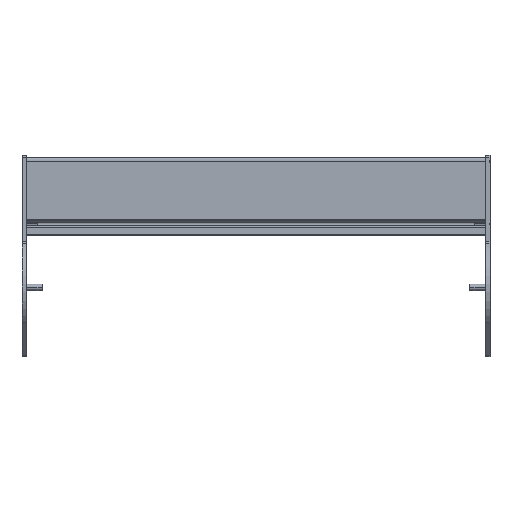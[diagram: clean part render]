
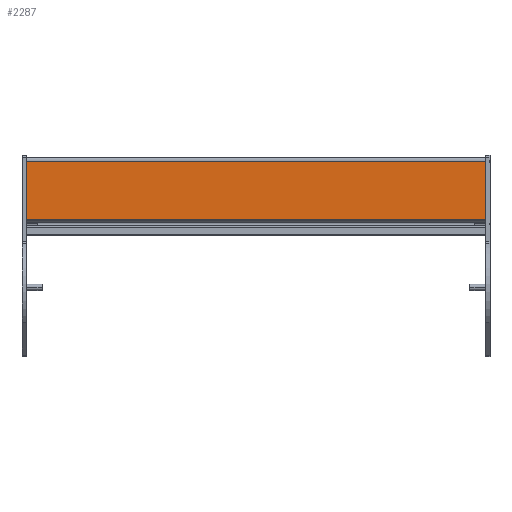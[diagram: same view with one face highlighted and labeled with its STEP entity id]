
A CAD part, top view. The second image highlights one B-rep face of the part: STEP entity #2287.
In plain terms, the highlighted planar face has unit normal (0, 0, 1) as drawn and (1, 0, 0) by its records, which use the part's own axes.
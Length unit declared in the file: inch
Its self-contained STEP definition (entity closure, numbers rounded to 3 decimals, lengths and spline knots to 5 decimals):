
#197=DIRECTION('',(0.,1.,0.));
#198=VECTOR('',#197,1.81445);
#199=CARTESIAN_POINT('',(0.683,-0.84545,-7.118));
#200=LINE('',#199,#198);
#303=DIRECTION('',(0.,1.,0.));
#304=VECTOR('',#303,1.81445);
#305=CARTESIAN_POINT('',(0.683,-0.84545,7.118));
#306=LINE('',#305,#304);
#652=DIRECTION('',(0.,0.,1.));
#653=VECTOR('',#652,14.236);
#654=CARTESIAN_POINT('',(0.683,0.969,-7.118));
#655=LINE('',#654,#653);
#665=DIRECTION('',(0.,0.,-1.));
#666=VECTOR('',#665,14.236);
#667=CARTESIAN_POINT('',(0.683,-0.84545,7.118));
#668=LINE('',#667,#666);
#1268=CARTESIAN_POINT('',(0.683,-0.84545,-7.118));
#1269=CARTESIAN_POINT('',(0.683,0.969,-7.118));
#1270=VERTEX_POINT('',#1268);
#1271=VERTEX_POINT('',#1269);
#1272=CARTESIAN_POINT('',(0.683,-0.84545,7.118));
#1273=CARTESIAN_POINT('',(0.683,0.969,7.118));
#1274=VERTEX_POINT('',#1272);
#1275=VERTEX_POINT('',#1273);
#2275=CARTESIAN_POINT('',(0.683,-0.86334,-7.118));
#2276=DIRECTION('',(1.,0.,0.));
#2277=DIRECTION('',(0.,1.,0.));
#2278=AXIS2_PLACEMENT_3D('',#2275,#2276,#2277);
#2279=PLANE('',#2278);
#2280=ORIENTED_EDGE('',*,*,#1633,.F.);
#2282=ORIENTED_EDGE('',*,*,#2281,.F.);
#2283=ORIENTED_EDGE('',*,*,#1736,.T.);
#2284=ORIENTED_EDGE('',*,*,#2268,.F.);
#2285=EDGE_LOOP('',(#2280,#2282,#2283,#2284));
#2286=FACE_OUTER_BOUND('',#2285,.F.);
#1633=EDGE_CURVE('',#1270,#1271,#200,.T.);
#1736=EDGE_CURVE('',#1274,#1275,#306,.T.);
#2268=EDGE_CURVE('',#1271,#1275,#655,.T.);
#2281=EDGE_CURVE('',#1274,#1270,#668,.T.);
#2287=ADVANCED_FACE('',(#2286),#2279,.T.);
